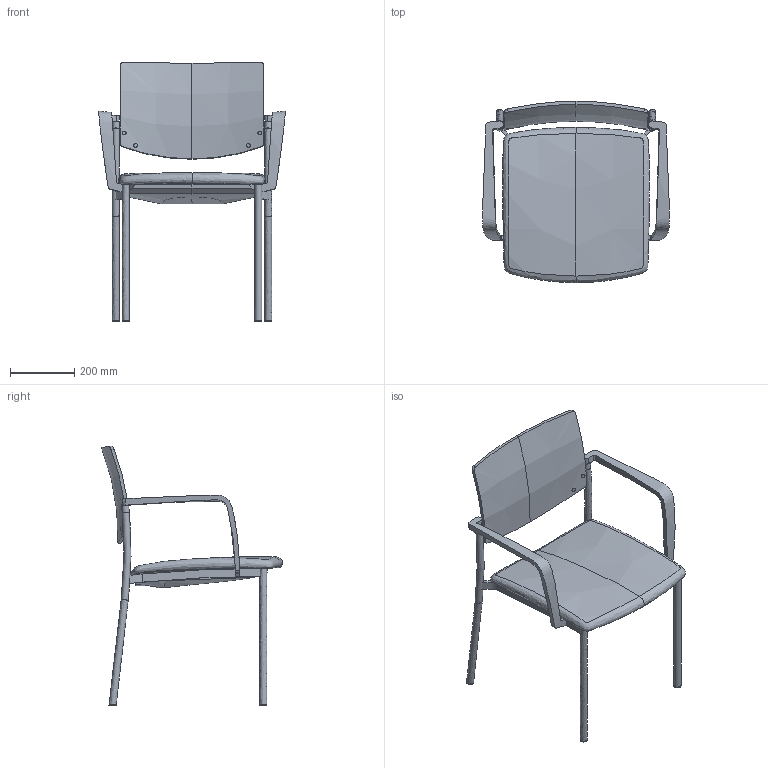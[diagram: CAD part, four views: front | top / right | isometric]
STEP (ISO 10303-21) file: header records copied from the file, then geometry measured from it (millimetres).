
FILE_DESCRIPTION(/* description */ (''),/* implementation_level */ '2;1');
FILE_NAME(/* name */ 'Seance 091-BR',/* time_stamp */ '2020-03-26T10:52:39+01:00',/* author */ (''),/* organization */ (''),/* preprocessor_version */ 'ST-DEVELOPER v16.5',/* originating_system */ '',/* authorisation */ '');
FILE_SCHEMA (('AUTOMOTIVE_DESIGN'));
Length unit declared in the file: millimetre
Products named in the file (1): Document
Bounding box: 580.87 x 563.31 x 807.99 mm (x, y, z)
Volume: 9194634.6 mm3; surface area: 1263814.4 mm2
Topology: 10 solids, 21 shells, 124 faces, 275 edges, 181 vertices
Faces by surface type: bspline 82, plane 42
Entity records: 7321 total; most frequent: CARTESIAN_POINT 5460, ORIENTED_EDGE 522, EDGE_CURVE 272, B_SPLINE_CURVE_WITH_KNOTS 196, VERTEX_POINT 175, ADVANCED_FACE 124, FACE_OUTER_BOUND 124, EDGE_LOOP 124
